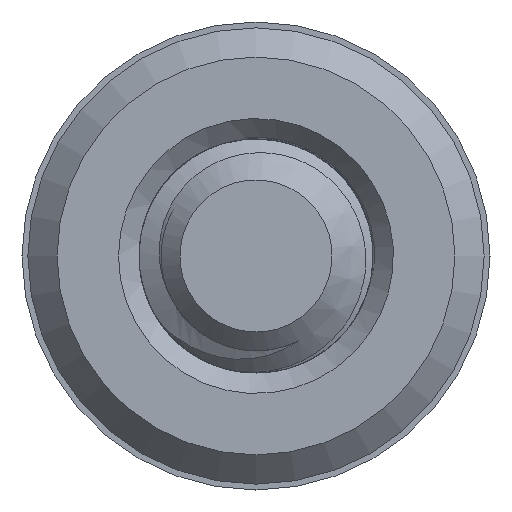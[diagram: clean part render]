
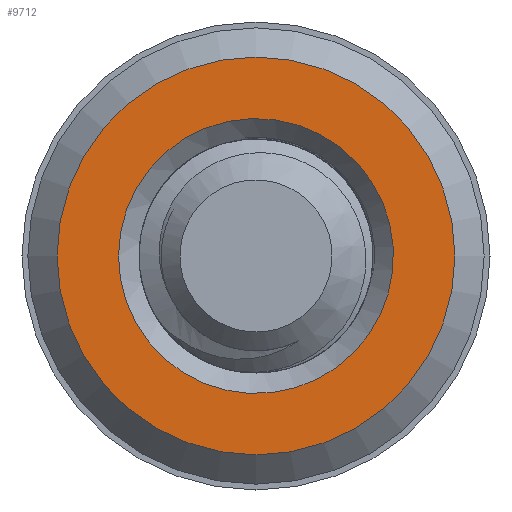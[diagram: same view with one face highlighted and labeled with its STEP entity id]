
A CAD part, front view. The second image highlights one B-rep face of the part: STEP entity #9712.
In plain terms, the highlighted planar face has unit normal (0, -1, 0).
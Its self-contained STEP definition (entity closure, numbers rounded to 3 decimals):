
#611 = CARTESIAN_POINT ( 'NONE',  ( -6.469, -13.448, 25.4 ) ) ;
#1191 = CARTESIAN_POINT ( 'NONE',  ( -2.569, -13.448, 25.4 ) ) ;
#1242 = PLANE ( 'NONE',  #9354 ) ;
#1280 = DIRECTION ( 'NONE',  ( 0., 1., 0. ) ) ;
#1606 = EDGE_LOOP ( 'NONE', ( #7098 ) ) ;
#2279 = CARTESIAN_POINT ( 'NONE',  ( -5.969, -13.448, 25.4 ) ) ;
#2383 = AXIS2_PLACEMENT_3D ( 'NONE', #1191, #4363, #7348 ) ;
#2723 = FACE_OUTER_BOUND ( 'NONE', #1606, .T. ) ;
#2745 = DIRECTION ( 'NONE',  ( -1., 0., 0. ) ) ;
#3380 = ORIENTED_EDGE ( 'NONE', *, *, #4208, .T. ) ;
#3727 = CARTESIAN_POINT ( 'NONE',  ( -4.919, -13.448, 25.4 ) ) ;
#3937 = EDGE_LOOP ( 'NONE', ( #3380 ) ) ;
#4208 = EDGE_CURVE ( 'NONE', #8657, #8657, #6658, .T. ) ;
#4363 = DIRECTION ( 'NONE',  ( 0., 1., 0. ) ) ;
#5047 = FACE_BOUND ( 'NONE', #3937, .T. ) ;
#5890 = DIRECTION ( 'NONE',  ( 0., -1., 0. ) ) ;
#5996 = AXIS2_PLACEMENT_3D ( 'NONE', #7352, #5890, #2745 ) ;
#6002 = DIRECTION ( 'NONE',  ( -1., 0., 0. ) ) ;
#6254 = VERTEX_POINT ( 'NONE', #2279 ) ;
#6433 = CIRCLE ( 'NONE', #5996, 3.4 ) ;
#6562 = EDGE_CURVE ( 'NONE', #6254, #6254, #6433, .T. ) ;
#6658 = CIRCLE ( 'NONE', #2383, 2.35 ) ;
#7098 = ORIENTED_EDGE ( 'NONE', *, *, #6562, .T. ) ;
#7348 = DIRECTION ( 'NONE',  ( -1., 0., 0. ) ) ;
#7352 = CARTESIAN_POINT ( 'NONE',  ( -2.569, -13.448, 25.4 ) ) ;
#8657 = VERTEX_POINT ( 'NONE', #3727 ) ;
#9354 = AXIS2_PLACEMENT_3D ( 'NONE', #611, #1280, #6002 ) ;
#9712 = ADVANCED_FACE ( 'NONE', ( #5047, #2723 ), #1242, .F. ) ;
